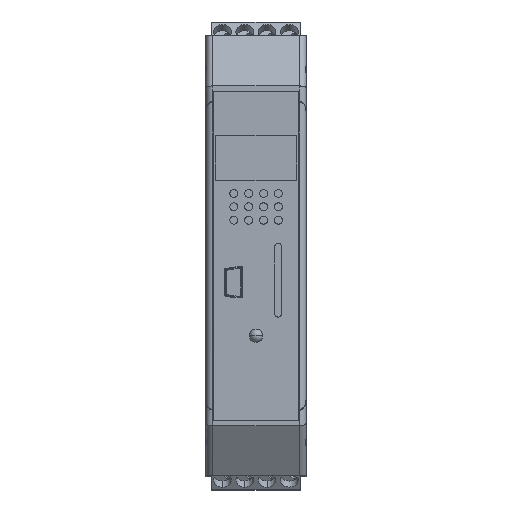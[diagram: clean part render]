
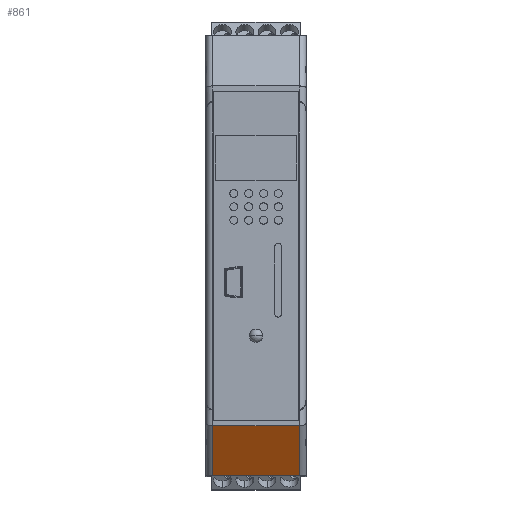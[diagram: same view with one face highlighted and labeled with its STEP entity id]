
A CAD part, top view. The second image highlights one B-rep face of the part: STEP entity #861.
In plain terms, the highlighted planar face has unit normal (0, -0.545, 0.839).
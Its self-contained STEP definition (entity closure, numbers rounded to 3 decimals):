
#861 = ADVANCED_FACE( '', ( #2586 ), #2587, .F. );
#2586 = FACE_OUTER_BOUND( '', #4354, .T. );
#2587 = PLANE( '', #4355 );
#4354 = EDGE_LOOP( '', ( #10883, #10884, #10885, #10886 ) );
#4355 = AXIS2_PLACEMENT_3D( '', #10887, #10888, #10889 );
#10883 = ORIENTED_EDGE( '', *, *, #11551, .F. );
#10884 = ORIENTED_EDGE( '', *, *, #13291, .T. );
#10885 = ORIENTED_EDGE( '', *, *, #12740, .F. );
#10886 = ORIENTED_EDGE( '', *, *, #13290, .F. );
#10887 = CARTESIAN_POINT( '', ( 9.75, -21.427, 113.543 ) );
#10888 = DIRECTION( '', ( 0., 0.545, -0.839 ) );
#10889 = DIRECTION( '', ( 1., 0., 0. ) );
#11551 = EDGE_CURVE( '', #13985, #13987, #13988, .T. );
#12740 = EDGE_CURVE( '', #15946, #15948, #15949, .T. );
#13290 = EDGE_CURVE( '', #13987, #15946, #16822, .T. );
#13291 = EDGE_CURVE( '', #13985, #15948, #16823, .T. );
#13985 = VERTEX_POINT( '', #17794 );
#13987 = VERTEX_POINT( '', #17797 );
#13988 = LINE( '', #17798, #17799 );
#15946 = VERTEX_POINT( '', #20764 );
#15948 = VERTEX_POINT( '', #20766 );
#15949 = LINE( '', #20767, #20768 );
#16822 = LINE( '', #22159, #22160 );
#16823 = LINE( '', #22161, #22162 );
#17794 = CARTESIAN_POINT( '', ( -9.75, -38.2, 102.65 ) );
#17797 = CARTESIAN_POINT( '', ( 9.75, -38.2, 102.65 ) );
#17798 = CARTESIAN_POINT( '', ( 9.175, -38.2, 102.65 ) );
#17799 = VECTOR( '', #22912, 1. );
#20764 = CARTESIAN_POINT( '', ( 9.75, -49.5, 95.312 ) );
#20766 = CARTESIAN_POINT( '', ( -9.75, -49.5, 95.312 ) );
#20767 = CARTESIAN_POINT( '', ( 9.175, -49.5, 95.312 ) );
#20768 = VECTOR( '', #24463, 1. );
#22159 = CARTESIAN_POINT( '', ( 9.75, -21.427, 113.543 ) );
#22160 = VECTOR( '', #25106, 1. );
#22161 = CARTESIAN_POINT( '', ( -9.75, -21.427, 113.543 ) );
#22162 = VECTOR( '', #25107, 1. );
#22912 = DIRECTION( '', ( 1., 0., 0. ) );
#24463 = DIRECTION( '', ( -1., 0., 0. ) );
#25106 = DIRECTION( '', ( 0., -0.839, -0.545 ) );
#25107 = DIRECTION( '', ( 0., -0.839, -0.545 ) );
